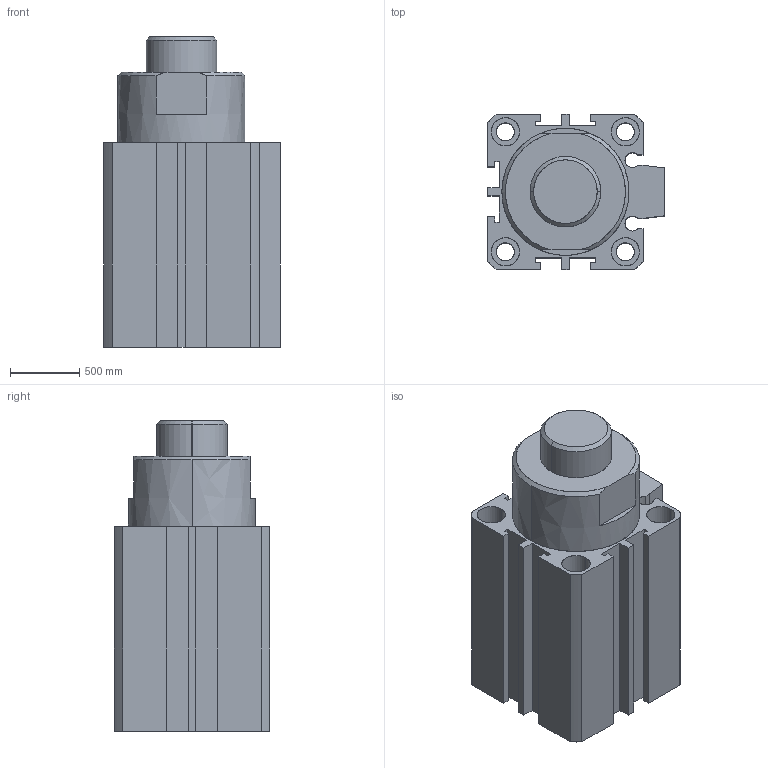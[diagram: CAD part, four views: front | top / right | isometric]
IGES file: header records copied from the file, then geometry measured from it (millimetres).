
Start section: SolidWorks IGES file using analytic representation for surfaces
Global section: file name: C:\Documents and Settings\Standard\Bureau\NM pieces 3d\ELO 32 10 tige sortie.IGS; native system: SolidWorks 2007; preprocessor: SolidWorks 2007; author: Standard; date: 080328.095601; units: inch
Bounding box: 1270 x 1117.6 x 2235.2 mm (x, y, z)
Surface area: 21130301 mm2 (no closed solid volume)
Topology: 0 solids, 0 shells, 527 faces, 13311 edges, 13348 vertices
Faces by surface type: bspline 481, revolution 46
